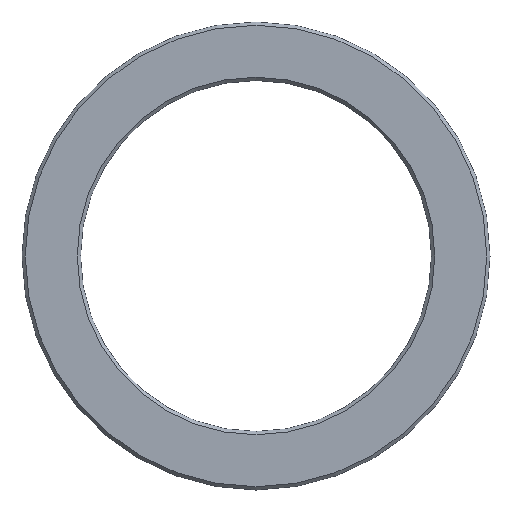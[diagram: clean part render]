
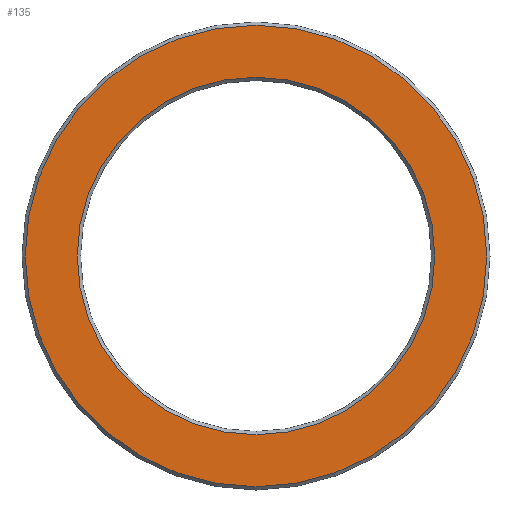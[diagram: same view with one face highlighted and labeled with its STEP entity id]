
A CAD part, left-side view. The second image highlights one B-rep face of the part: STEP entity #135.
In plain terms, the highlighted planar face has unit normal (-1, 0, 0).
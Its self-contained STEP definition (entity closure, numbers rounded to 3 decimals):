
#15=FACE_BOUND('',#32,.T.);
#17=PLANE('',#168);
#23=FACE_OUTER_BOUND('',#31,.T.);
#31=EDGE_LOOP('',(#104));
#32=EDGE_LOOP('',(#105));
#53=CIRCLE('',#164,355.);
#56=CIRCLE('',#169,275.);
#65=VERTEX_POINT('',#235);
#68=VERTEX_POINT('',#245);
#78=EDGE_CURVE('',#65,#65,#53,.T.);
#82=EDGE_CURVE('',#68,#68,#56,.T.);
#104=ORIENTED_EDGE('',*,*,#78,.F.);
#105=ORIENTED_EDGE('',*,*,#82,.F.);
#135=ADVANCED_FACE('',(#23,#15),#17,.T.);
#164=AXIS2_PLACEMENT_3D('',#237,#190,#191);
#168=AXIS2_PLACEMENT_3D('',#244,#199,#200);
#169=AXIS2_PLACEMENT_3D('',#246,#201,#202);
#190=DIRECTION('center_axis',(1.,0.,0.));
#191=DIRECTION('ref_axis',(0.,-1.,0.));
#199=DIRECTION('center_axis',(-1.,0.,0.));
#200=DIRECTION('ref_axis',(0.,0.,1.));
#201=DIRECTION('center_axis',(-1.,0.,0.));
#202=DIRECTION('ref_axis',(0.,-1.,0.));
#235=CARTESIAN_POINT('',(0.,355.,0.));
#237=CARTESIAN_POINT('Origin',(0.,0.,0.));
#244=CARTESIAN_POINT('Origin',(0.,360.,0.));
#245=CARTESIAN_POINT('',(0.,275.,0.));
#246=CARTESIAN_POINT('Origin',(0.,0.,0.));
